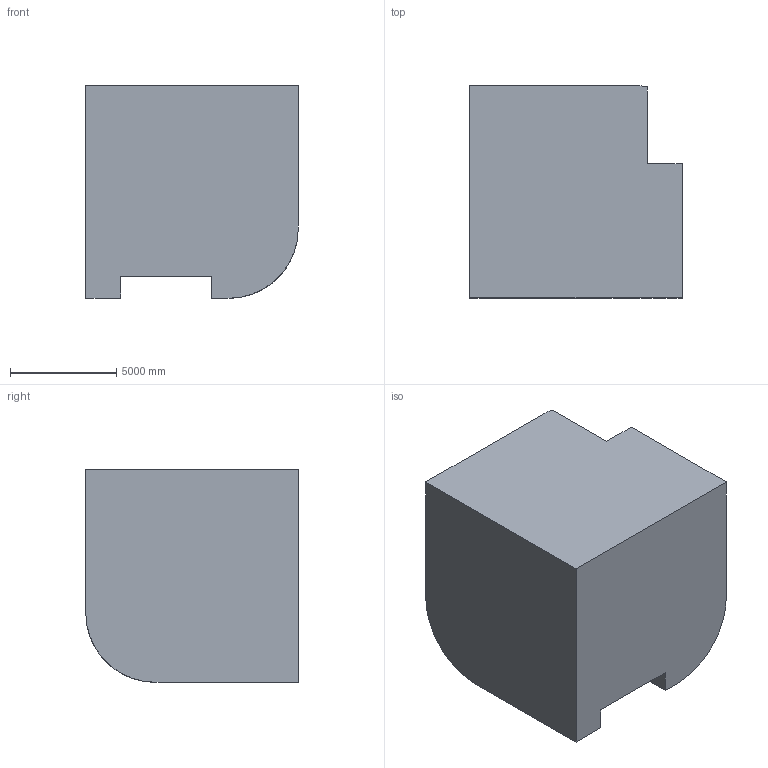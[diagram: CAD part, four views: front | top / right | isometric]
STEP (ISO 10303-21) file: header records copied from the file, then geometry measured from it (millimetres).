
FILE_DESCRIPTION (( 'STEP AP203' ), '1' );
FILE_NAME ('1397.STEP', '2022-08-18T14:13:57', ( 'user' ), ( '' ), 'SwSTEP 2.0', 'SolidWorks 2021', '' );
FILE_SCHEMA (( 'CONFIG_CONTROL_DESIGN' ));
Length unit declared in the file: centimetre
Products named in the file (1): 1397
Bounding box: 10000 x 10000 x 10000 mm (x, y, z)
Volume: 850678742240.7 mm3; surface area: 569660333.6 mm2
Topology: 1 solids, 1 shells, 17 faces, 45 edges, 29 vertices
Faces by surface type: plane 13, cylinder 3, bspline 1
Entity records: 870 total; most frequent: CARTESIAN_POINT 386, ORIENTED_EDGE 88, DIRECTION 79, EDGE_CURVE 44, VECTOR 33, LINE 33, VERTEX_POINT 29, AXIS2_PLACEMENT_3D 23
